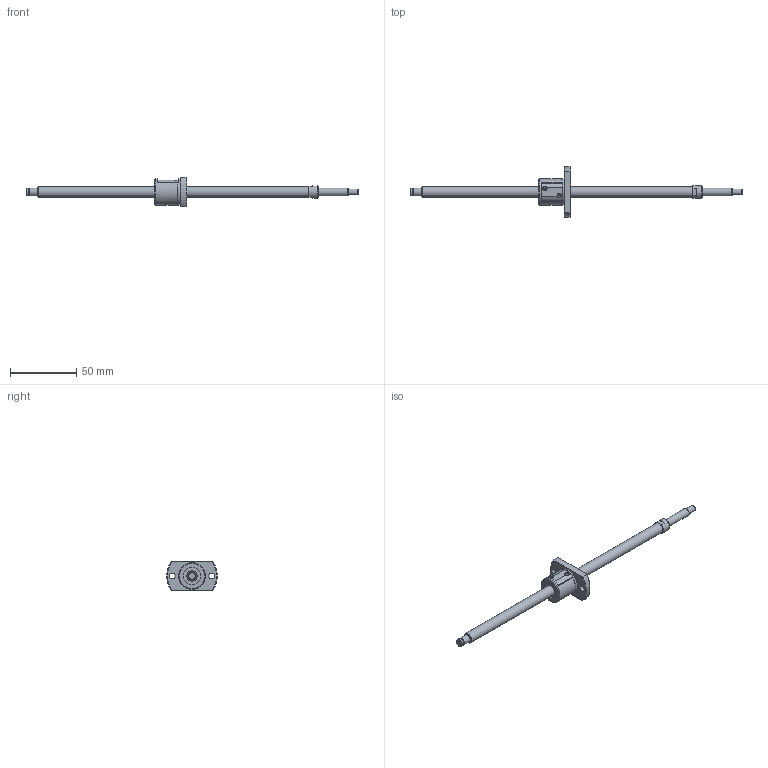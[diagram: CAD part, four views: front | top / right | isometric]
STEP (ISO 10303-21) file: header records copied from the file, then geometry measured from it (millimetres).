
FILE_DESCRIPTION(/* description */ ('STEP AP214'),/* implementation_level */ '2;1');
FILE_NAME(/* name */ 'SG0802-200R250C3B0X(88)',/* time_stamp */ '2026-07-21T16:46:30+02:00',/* author */ ('License CC BY-ND 4.0'),/* organization */ ('CADENAS'),/* preprocessor_version */ 'ST-DEVELOPER v20',/* originating_system */ 'PARTsolutions',/* authorisation */ ' ');
FILE_SCHEMA (('AUTOMOTIVE_DESIGN {1 0 10303 214 3 1 1}'));
Length unit declared in the file: millimetre
Products named in the file (3): SG0802-200R250C3B0X(88); SG0802-200R250C3B_shaft; SG0802_nut
Assembly tree (2 placements, depth 2):
  SG0802-200R250C3B0X(88)
    SG0802-200R250C3B_shaft
    SG0802_nut
Bounding box: 250 x 38 x 22 mm (x, y, z)
Volume: 19910.2 mm3; surface area: 10074.7 mm2
Topology: 2 solids, 2 shells, 79 faces, 187 edges, 122 vertices
Faces by surface type: plane 38, cylinder 26, cone 14, torus 1
Full cylindrical faces by diameter (mm): 4.5 x3, 5.7 x1, 6 x3, 8 x2, 9.5 x1, 13 x2, 19.7 x1, 20 x1
Entity records: 2197 total; most frequent: CARTESIAN_POINT 408, DIRECTION 374, ORIENTED_EDGE 306, AXIS2_PLACEMENT_3D 157, EDGE_CURVE 153, EDGE_LOOP 120, FACE_BOUND 120, VERTEX_POINT 113
